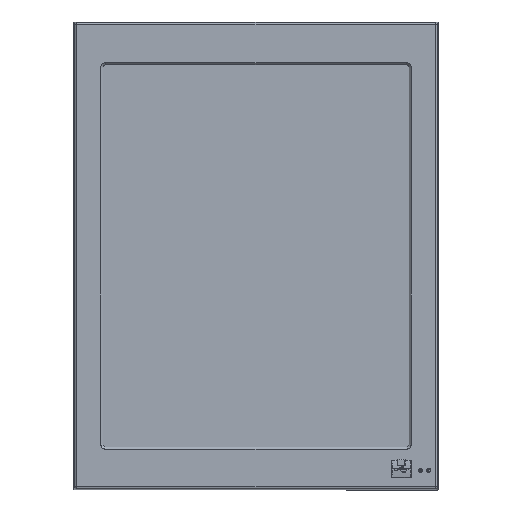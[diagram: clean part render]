
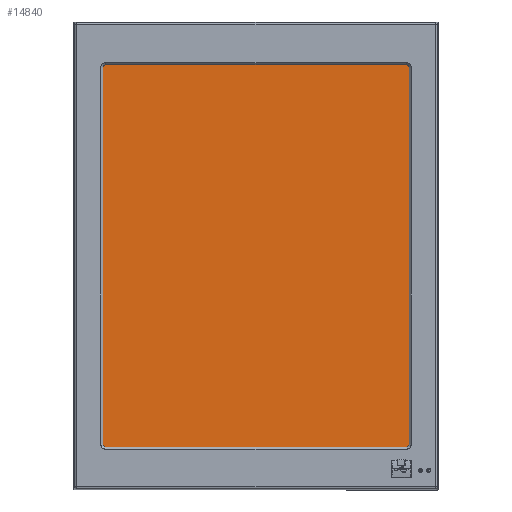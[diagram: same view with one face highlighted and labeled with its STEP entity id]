
A CAD part, top view. The second image highlights one B-rep face of the part: STEP entity #14840.
In plain terms, the highlighted planar face has unit normal (0, 0, 1).
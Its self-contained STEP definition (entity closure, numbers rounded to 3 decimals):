
#2389 = DIRECTION ( 'NONE',  ( 1., 0., 0. ) ) ;
#3192 = VERTEX_POINT ( 'NONE', #36604 ) ;
#3911 = EDGE_CURVE ( 'NONE', #41577, #9740, #28958, .T. ) ;
#4055 = VECTOR ( 'NONE', #15553, 1000. ) ;
#4745 = VECTOR ( 'NONE', #24161, 1000. ) ;
#5762 = DIRECTION ( 'NONE',  ( 0., -1., 0. ) ) ;
#9252 = PLANE ( 'NONE',  #24571 ) ;
#9740 = VERTEX_POINT ( 'NONE', #22341 ) ;
#10416 = VECTOR ( 'NONE', #19355, 1000. ) ;
#13336 = LINE ( 'NONE', #29361, #4055 ) ;
#14840 = ADVANCED_FACE ( 'NONE', ( #35705 ), #9252, .T. ) ;
#15023 = EDGE_LOOP ( 'NONE', ( #24019, #27784, #29001, #32322 ) ) ;
#15553 = DIRECTION ( 'NONE',  ( -1., 0., 0. ) ) ;
#16365 = EDGE_CURVE ( 'NONE', #9740, #42084, #13336, .T. ) ;
#16528 = CARTESIAN_POINT ( 'NONE',  ( 387.5, 9., 0.5 ) ) ;
#17407 = EDGE_CURVE ( 'NONE', #42084, #3192, #31725, .T. ) ;
#19355 = DIRECTION ( 'NONE',  ( 0., 1., 0. ) ) ;
#19562 = CARTESIAN_POINT ( 'NONE',  ( 387.5, 314., 0.5 ) ) ;
#21259 = EDGE_CURVE ( 'NONE', #3192, #41577, #32531, .T. ) ;
#22341 = CARTESIAN_POINT ( 'NONE',  ( 387.5, 314., 0.5 ) ) ;
#23284 = DIRECTION ( 'NONE',  ( 0., 0., 1. ) ) ;
#24019 = ORIENTED_EDGE ( 'NONE', *, *, #17407, .T. ) ;
#24161 = DIRECTION ( 'NONE',  ( 1., 0., 0. ) ) ;
#24571 = AXIS2_PLACEMENT_3D ( 'NONE', #44062, #23284, #2389 ) ;
#25747 = VECTOR ( 'NONE', #5762, 1000. ) ;
#27784 = ORIENTED_EDGE ( 'NONE', *, *, #21259, .T. ) ;
#28958 = LINE ( 'NONE', #19562, #10416 ) ;
#29001 = ORIENTED_EDGE ( 'NONE', *, *, #3911, .T. ) ;
#29361 = CARTESIAN_POINT ( 'NONE',  ( 7.5, 314., 0.5 ) ) ;
#31725 = LINE ( 'NONE', #33605, #25747 ) ;
#32322 = ORIENTED_EDGE ( 'NONE', *, *, #16365, .T. ) ;
#32531 = LINE ( 'NONE', #34632, #4745 ) ;
#33605 = CARTESIAN_POINT ( 'NONE',  ( 7.5, 314., 0.5 ) ) ;
#34632 = CARTESIAN_POINT ( 'NONE',  ( 7.5, 9., 0.5 ) ) ;
#35705 = FACE_OUTER_BOUND ( 'NONE', #15023, .T. ) ;
#36604 = CARTESIAN_POINT ( 'NONE',  ( 7.5, 9., 0.5 ) ) ;
#40929 = CARTESIAN_POINT ( 'NONE',  ( 7.5, 314., 0.5 ) ) ;
#41577 = VERTEX_POINT ( 'NONE', #16528 ) ;
#42084 = VERTEX_POINT ( 'NONE', #40929 ) ;
#44062 = CARTESIAN_POINT ( 'NONE',  ( 0., 0., 0.5 ) ) ;
